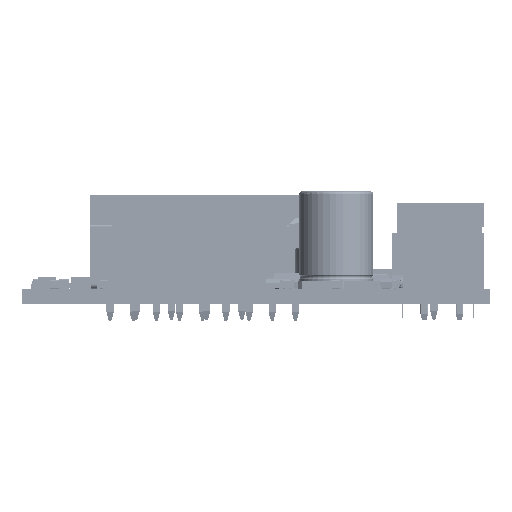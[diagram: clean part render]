
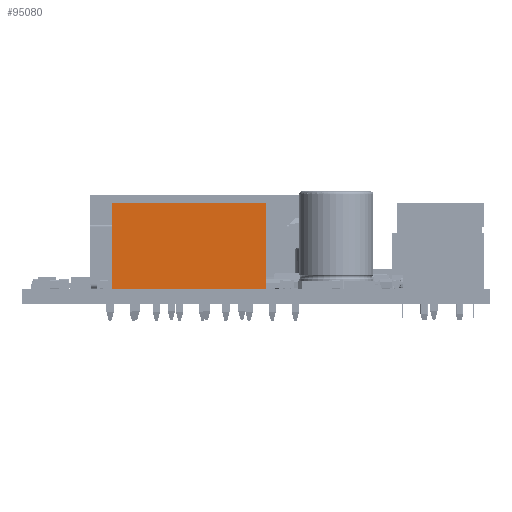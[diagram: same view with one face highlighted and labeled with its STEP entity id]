
A CAD part, front view. The second image highlights one B-rep face of the part: STEP entity #95080.
In plain terms, the highlighted planar face has unit normal (0, -1, 0) as drawn and (1, 0, 0) by its records, which use the part's own axes.
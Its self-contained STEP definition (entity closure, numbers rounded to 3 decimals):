
#12948=LINE('',#196233,#23385);
#12971=LINE('',#196293,#23408);
#12974=LINE('',#196299,#23411);
#12975=LINE('',#196301,#23412);
#23385=VECTOR('',#155784,1000.);
#23408=VECTOR('',#155823,1000.);
#23411=VECTOR('',#155828,1000.);
#23412=VECTOR('',#155829,1000.);
#46982=ORIENTED_EDGE('',*,*,#62762,.F.);
#46983=ORIENTED_EDGE('',*,*,#62765,.F.);
#46984=ORIENTED_EDGE('',*,*,#62766,.F.);
#46985=ORIENTED_EDGE('',*,*,#62732,.T.);
#62732=EDGE_CURVE('',#72106,#72104,#12948,.T.);
#62762=EDGE_CURVE('',#72135,#72104,#12971,.T.);
#62765=EDGE_CURVE('',#72137,#72135,#12974,.T.);
#62766=EDGE_CURVE('',#72106,#72137,#12975,.T.);
#72104=VERTEX_POINT('',#196231);
#72106=VERTEX_POINT('',#196234);
#72135=VERTEX_POINT('',#196294);
#72137=VERTEX_POINT('',#196300);
#80405=EDGE_LOOP('',(#46982,#46983,#46984,#46985));
#86072=FACE_BOUND('',#80405,.T.);
#90040=PLANE('',#133709);
#95080=ADVANCED_FACE('',(#86072),#90040,.T.);
#133709=AXIS2_PLACEMENT_3D('',#196298,#155826,#155827);
#155784=DIRECTION('',(0.,-1.,0.));
#155823=DIRECTION('',(0.,0.,1.));
#155826=DIRECTION('',(1.,0.,0.));
#155827=DIRECTION('',(0.,-1.,0.));
#155828=DIRECTION('',(0.,-1.,0.));
#155829=DIRECTION('',(0.,0.,-1.));
#196231=CARTESIAN_POINT('',(0.,0.,2.6));
#196233=CARTESIAN_POINT('',(0.,9.2,2.6));
#196234=CARTESIAN_POINT('',(0.,9.2,2.6));
#196293=CARTESIAN_POINT('',(0.,0.,-14.03));
#196294=CARTESIAN_POINT('',(0.,0.,-14.03));
#196298=CARTESIAN_POINT('',(0.,3.1,-7.62));
#196299=CARTESIAN_POINT('',(0.,9.2,-14.03));
#196300=CARTESIAN_POINT('',(0.,9.2,-14.03));
#196301=CARTESIAN_POINT('',(0.,9.2,2.6));
